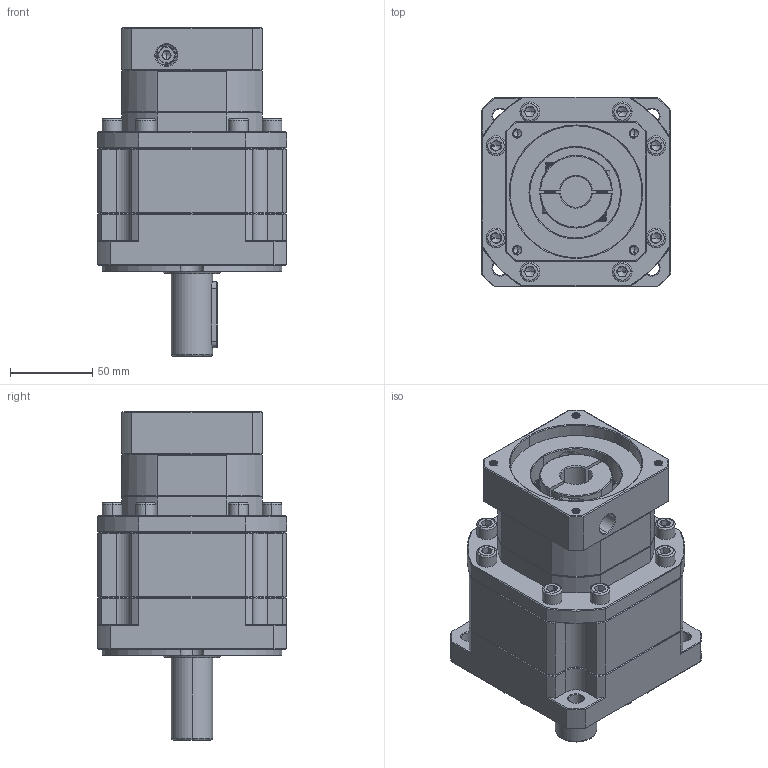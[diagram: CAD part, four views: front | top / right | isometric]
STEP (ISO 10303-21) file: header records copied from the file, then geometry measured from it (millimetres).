
FILE_DESCRIPTION (( 'STEP AP214' ), '1' );
FILE_NAME ('ZB115A-D25-L2-P2-19-80-100-M6.step', '2023-08-26T10:00:01', ( '' ), ( '' ), 'SwSTEP 2.0', 'SolidWorks 2016', '' );
FILE_SCHEMA (( 'AUTOMOTIVE_DESIGN' ));
Length unit declared in the file: millimetre
Products named in the file (1): ZB115A-D25-L2-P2-19-80-100-M6
Bounding box: 115 x 115 x 199 mm (x, y, z)
Volume: 1350008.8 mm3; surface area: 133322.5 mm2
Topology: 5 solids, 6 shells, 2412 faces, 6321 edges, 4011 vertices
Faces by surface type: plane 1190, bspline 427, cylinder 425, cone 355, torus 15
Entity records: 128182 total; most frequent: CARTESIAN_POINT 45935, ORIENTED_EDGE 12566, DIRECTION 9939, EDGE_CURVE 6283, VECTOR 4039, LINE 4039, VERTEX_POINT 4011, AXIS2_PLACEMENT_3D 2950
